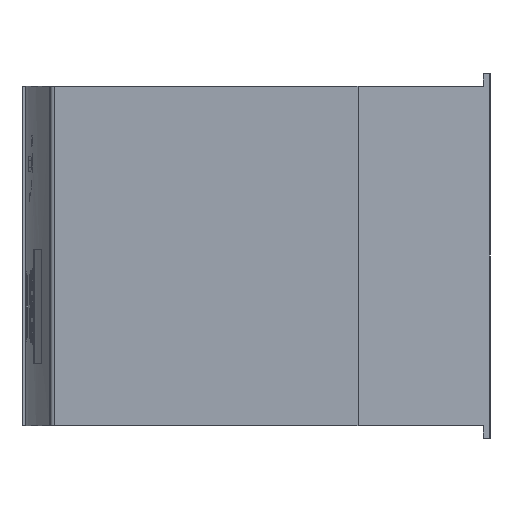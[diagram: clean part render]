
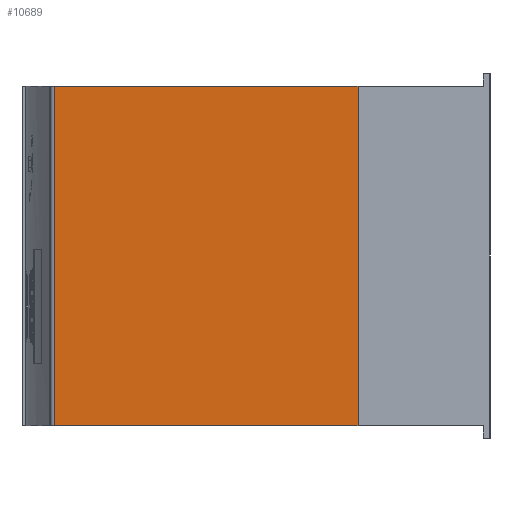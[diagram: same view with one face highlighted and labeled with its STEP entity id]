
A CAD part, left-side view. The second image highlights one B-rep face of the part: STEP entity #10689.
In plain terms, the highlighted planar face has unit normal (-0.998, 0.058, 0).
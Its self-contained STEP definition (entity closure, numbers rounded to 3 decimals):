
#6 = DIRECTION ( 'NONE',  ( 0.998, -0.058, 0. ) ) ;
#174 = CARTESIAN_POINT ( 'NONE',  ( -110.687, -28.906, 197. ) ) ;
#212 = DIRECTION ( 'NONE',  ( 0., 0., -1. ) ) ;
#224 = ORIENTED_EDGE ( 'NONE', *, *, #7451, .T. ) ;
#535 = VECTOR ( 'NONE', #9336, 1000. ) ;
#810 = EDGE_CURVE ( 'NONE', #1139, #12123, #6170, .T. ) ;
#864 = EDGE_LOOP ( 'NONE', ( #224, #9141, #10252, #3342, #10449, #7423, #9062, #5539 ) ) ;
#870 = FACE_OUTER_BOUND ( 'NONE', #864, .T. ) ;
#1139 = VERTEX_POINT ( 'NONE', #2719 ) ;
#1262 = VECTOR ( 'NONE', #212, 1000. ) ;
#1420 = VECTOR ( 'NONE', #7853, 1000. ) ;
#1541 = LINE ( 'NONE', #4775, #5391 ) ;
#2672 = VERTEX_POINT ( 'NONE', #3947 ) ;
#2719 = CARTESIAN_POINT ( 'NONE',  ( -110.687, -28.906, 1.872 ) ) ;
#2798 = EDGE_CURVE ( 'NONE', #10986, #10942, #3884, .T. ) ;
#3095 = DIRECTION ( 'NONE',  ( 0., 0., -1. ) ) ;
#3342 = ORIENTED_EDGE ( 'NONE', *, *, #10785, .F. ) ;
#3377 = VECTOR ( 'NONE', #7197, 1000. ) ;
#3884 = LINE ( 'NONE', #174, #1262 ) ;
#3900 = CARTESIAN_POINT ( 'NONE',  ( -110.687, -28.906, 5.628 ) ) ;
#3939 = DIRECTION ( 'NONE',  ( -0.058, -0.998, 0. ) ) ;
#3947 = CARTESIAN_POINT ( 'NONE',  ( -100.443, 147.221, 197. ) ) ;
#4141 = EDGE_CURVE ( 'NONE', #2672, #7744, #1541, .T. ) ;
#4406 = CARTESIAN_POINT ( 'NONE',  ( -110.687, -28.906, 197. ) ) ;
#4657 = EDGE_CURVE ( 'NONE', #7744, #10986, #7801, .T. ) ;
#4763 = VECTOR ( 'NONE', #12071, 1000. ) ;
#4775 = CARTESIAN_POINT ( 'NONE',  ( -100.443, 147.221, 197. ) ) ;
#5391 = VECTOR ( 'NONE', #3939, 1000. ) ;
#5478 = CARTESIAN_POINT ( 'NONE',  ( -110.687, -28.906, 197. ) ) ;
#5539 = ORIENTED_EDGE ( 'NONE', *, *, #9324, .T. ) ;
#5604 = LINE ( 'NONE', #10332, #535 ) ;
#5904 = CARTESIAN_POINT ( 'NONE',  ( -100.443, 147.221, 197. ) ) ;
#6170 = LINE ( 'NONE', #11705, #1420 ) ;
#6212 = CARTESIAN_POINT ( 'NONE',  ( -110.687, -28.906, 197. ) ) ;
#6348 = VERTEX_POINT ( 'NONE', #3900 ) ;
#6450 = DIRECTION ( 'NONE',  ( 0., 0., -1. ) ) ;
#6488 = CARTESIAN_POINT ( 'NONE',  ( -110.687, -28.906, 195.128 ) ) ;
#7006 = LINE ( 'NONE', #10901, #7903 ) ;
#7082 = CARTESIAN_POINT ( 'NONE',  ( -110.687, -28.906, 0. ) ) ;
#7197 = DIRECTION ( 'NONE',  ( 0., 0., -1. ) ) ;
#7423 = ORIENTED_EDGE ( 'NONE', *, *, #4657, .F. ) ;
#7451 = EDGE_CURVE ( 'NONE', #10821, #12123, #5604, .T. ) ;
#7500 = VECTOR ( 'NONE', #6450, 1000. ) ;
#7744 = VERTEX_POINT ( 'NONE', #5478 ) ;
#7801 = LINE ( 'NONE', #4406, #7500 ) ;
#7853 = DIRECTION ( 'NONE',  ( 0., 0., -1. ) ) ;
#7903 = VECTOR ( 'NONE', #3095, 1000. ) ;
#8903 = AXIS2_PLACEMENT_3D ( 'NONE', #5904, #6, #10781 ) ;
#9062 = ORIENTED_EDGE ( 'NONE', *, *, #4141, .F. ) ;
#9141 = ORIENTED_EDGE ( 'NONE', *, *, #810, .F. ) ;
#9275 = LINE ( 'NONE', #11123, #4763 ) ;
#9324 = EDGE_CURVE ( 'NONE', #2672, #10821, #9275, .T. ) ;
#9336 = DIRECTION ( 'NONE',  ( -0.058, -0.998, 0. ) ) ;
#10252 = ORIENTED_EDGE ( 'NONE', *, *, #11466, .F. ) ;
#10268 = CARTESIAN_POINT ( 'NONE',  ( -110.687, -28.906, 191.372 ) ) ;
#10332 = CARTESIAN_POINT ( 'NONE',  ( -100.443, 147.221, 0. ) ) ;
#10449 = ORIENTED_EDGE ( 'NONE', *, *, #2798, .F. ) ;
#10689 = ADVANCED_FACE ( 'NONE', ( #870 ), #11672, .F. ) ;
#10781 = DIRECTION ( 'NONE',  ( 0.058, 0.998, 0. ) ) ;
#10785 = EDGE_CURVE ( 'NONE', #10942, #6348, #7006, .T. ) ;
#10821 = VERTEX_POINT ( 'NONE', #10869 ) ;
#10869 = CARTESIAN_POINT ( 'NONE',  ( -100.443, 147.221, 0. ) ) ;
#10901 = CARTESIAN_POINT ( 'NONE',  ( -110.687, -28.906, 197. ) ) ;
#10942 = VERTEX_POINT ( 'NONE', #10268 ) ;
#10977 = LINE ( 'NONE', #6212, #3377 ) ;
#10986 = VERTEX_POINT ( 'NONE', #6488 ) ;
#11123 = CARTESIAN_POINT ( 'NONE',  ( -100.443, 147.221, 197. ) ) ;
#11466 = EDGE_CURVE ( 'NONE', #6348, #1139, #10977, .T. ) ;
#11672 = PLANE ( 'NONE',  #8903 ) ;
#11705 = CARTESIAN_POINT ( 'NONE',  ( -110.687, -28.906, 197. ) ) ;
#12071 = DIRECTION ( 'NONE',  ( 0., 0., -1. ) ) ;
#12123 = VERTEX_POINT ( 'NONE', #7082 ) ;
